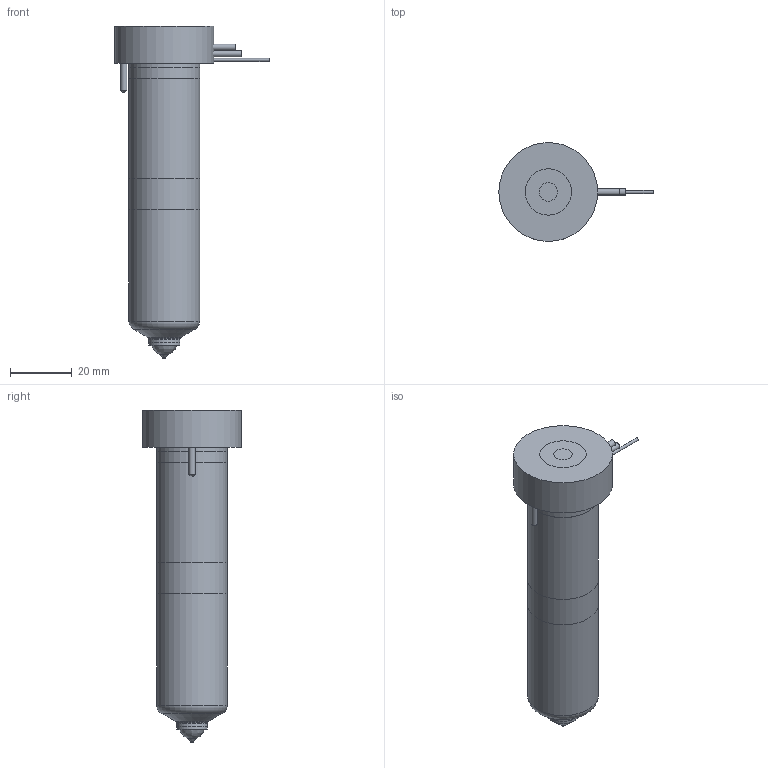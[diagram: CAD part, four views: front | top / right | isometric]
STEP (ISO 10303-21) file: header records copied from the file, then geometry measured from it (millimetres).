
FILE_DESCRIPTION(/* description */ (''),/* implementation_level */ '2;1');
FILE_NAME(/* name */ 'MXTT-MXIT13095_250C_b',/* time_stamp */ '2007-01-18T09:52:07+13:00',/* author */ (''),/* organization */ (''),/* preprocessor_version */ 'ST-DEVELOPER v9',/* originating_system */ 'UGS - NX 4.0',/* authorisation */ '');
FILE_SCHEMA (('CONFIG_CONTROL_DESIGN'));
Length unit declared in the file: millimetre
Products named in the file (1): MXTT-MXIT13095_250C_b
Bounding box: 49.95 x 32 x 107.51 mm (x, y, z)
Volume: 80703.1 mm3; surface area: 19124.9 mm2
Topology: 7 solids, 7 shells, 83 faces, 158 edges, 101 vertices
Faces by surface type: plane 35, cylinder 27, cone 11, torus 8, bspline 2
Full cylindrical faces by diameter (mm): 0.9 x1, 1 x3, 2 x4, 6 x1, 9.61 x1, 10.01 x2, 12.6 x1, 18.8 x1, 22.9 x2, 23 x2, 32 x1
Entity records: 2005 total; most frequent: CARTESIAN_POINT 414, DIRECTION 340, ORIENTED_EDGE 222, AXIS2_PLACEMENT_3D 157, EDGE_LOOP 132, EDGE_CURVE 111, VERTEX_POINT 92, ADVANCED_FACE 83
